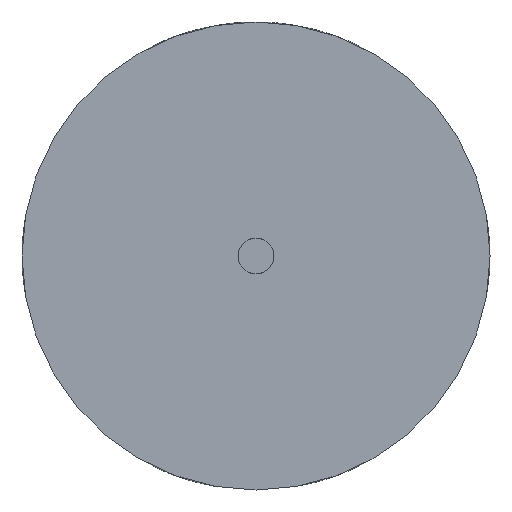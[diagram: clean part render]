
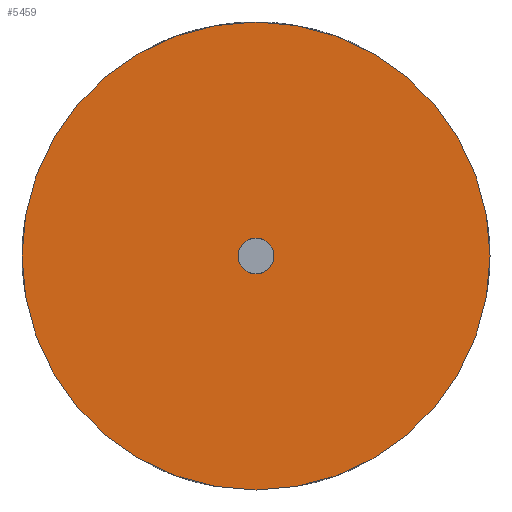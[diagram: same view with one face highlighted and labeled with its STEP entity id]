
A CAD part, front view. The second image highlights one B-rep face of the part: STEP entity #5459.
In plain terms, the highlighted planar face has unit normal (0, -1, 0).
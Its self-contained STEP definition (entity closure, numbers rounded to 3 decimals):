
#245 = ORIENTED_EDGE ( 'NONE', *, *, #2667, .F. ) ;
#265 = CARTESIAN_POINT ( 'NONE',  ( 0., 0., -78.5 ) ) ;
#392 = DIRECTION ( 'NONE',  ( 0., 0., -1. ) ) ;
#395 = VERTEX_POINT ( 'NONE', #4323 ) ;
#415 = DIRECTION ( 'NONE',  ( 0., 1., 0. ) ) ;
#461 = AXIS2_PLACEMENT_3D ( 'NONE', #4937, #5441, #494 ) ;
#494 = DIRECTION ( 'NONE',  ( 0., 0., -1. ) ) ;
#745 = FACE_OUTER_BOUND ( 'NONE', #4705, .T. ) ;
#833 = CIRCLE ( 'NONE', #4062, 6. ) ;
#868 = DIRECTION ( 'NONE',  ( 0., 0., 1. ) ) ;
#923 = PLANE ( 'NONE',  #1642 ) ;
#1114 = DIRECTION ( 'NONE',  ( 0., 1., 0. ) ) ;
#1134 = DIRECTION ( 'NONE',  ( 0., 0., 1. ) ) ;
#1625 = DIRECTION ( 'NONE',  ( 0., 1., 0. ) ) ;
#1642 = AXIS2_PLACEMENT_3D ( 'NONE', #2310, #415, #868 ) ;
#1691 = CARTESIAN_POINT ( 'NONE',  ( 0., 0., 0. ) ) ;
#1732 = EDGE_CURVE ( 'NONE', #2459, #2759, #833, .T. ) ;
#1916 = DIRECTION ( 'NONE',  ( 0., -1., 0. ) ) ;
#1957 = AXIS2_PLACEMENT_3D ( 'NONE', #1691, #1114, #1134 ) ;
#2300 = EDGE_LOOP ( 'NONE', ( #4213, #6115 ) ) ;
#2310 = CARTESIAN_POINT ( 'NONE',  ( 0., 0., 0. ) ) ;
#2459 = VERTEX_POINT ( 'NONE', #4840 ) ;
#2667 = EDGE_CURVE ( 'NONE', #6250, #395, #3917, .T. ) ;
#2759 = VERTEX_POINT ( 'NONE', #4071 ) ;
#2986 = EDGE_CURVE ( 'NONE', #2759, #2459, #5468, .T. ) ;
#3889 = ORIENTED_EDGE ( 'NONE', *, *, #6153, .F. ) ;
#3917 = CIRCLE ( 'NONE', #5878, 78.5 ) ;
#4062 = AXIS2_PLACEMENT_3D ( 'NONE', #5366, #1916, #392 ) ;
#4071 = CARTESIAN_POINT ( 'NONE',  ( 0., 0., -6. ) ) ;
#4213 = ORIENTED_EDGE ( 'NONE', *, *, #2986, .F. ) ;
#4323 = CARTESIAN_POINT ( 'NONE',  ( 0., 0., 78.5 ) ) ;
#4625 = DIRECTION ( 'NONE',  ( 0., 0., 1. ) ) ;
#4705 = EDGE_LOOP ( 'NONE', ( #245, #3889 ) ) ;
#4830 = FACE_BOUND ( 'NONE', #2300, .T. ) ;
#4840 = CARTESIAN_POINT ( 'NONE',  ( 0., 0., 6. ) ) ;
#4937 = CARTESIAN_POINT ( 'NONE',  ( 0., 0., 0. ) ) ;
#5066 = CIRCLE ( 'NONE', #1957, 78.5 ) ;
#5366 = CARTESIAN_POINT ( 'NONE',  ( 0., 0., 0. ) ) ;
#5441 = DIRECTION ( 'NONE',  ( 0., -1., 0. ) ) ;
#5459 = ADVANCED_FACE ( 'NONE', ( #4830, #745 ), #923, .F. ) ;
#5468 = CIRCLE ( 'NONE', #461, 6. ) ;
#5559 = CARTESIAN_POINT ( 'NONE',  ( 0., 0., 0. ) ) ;
#5878 = AXIS2_PLACEMENT_3D ( 'NONE', #5559, #1625, #4625 ) ;
#6115 = ORIENTED_EDGE ( 'NONE', *, *, #1732, .F. ) ;
#6153 = EDGE_CURVE ( 'NONE', #395, #6250, #5066, .T. ) ;
#6250 = VERTEX_POINT ( 'NONE', #265 ) ;
